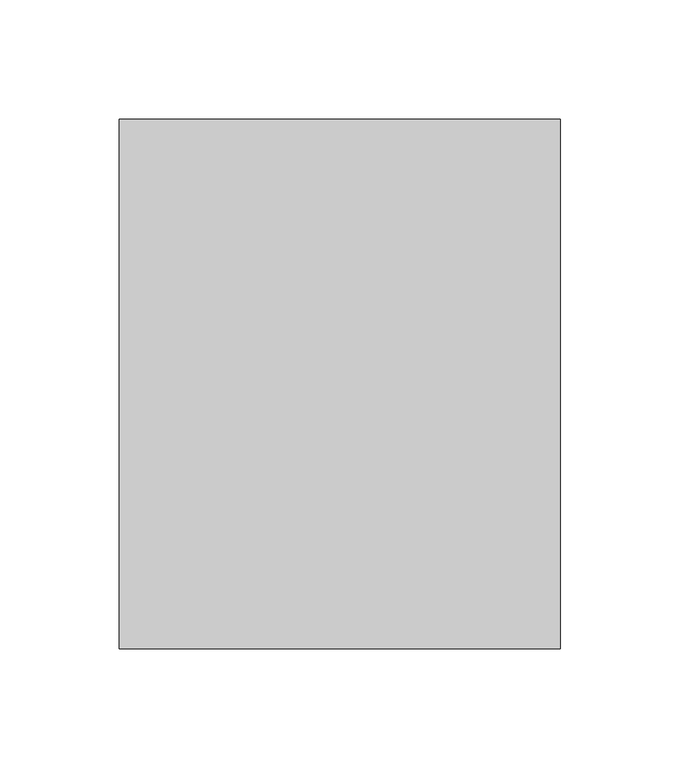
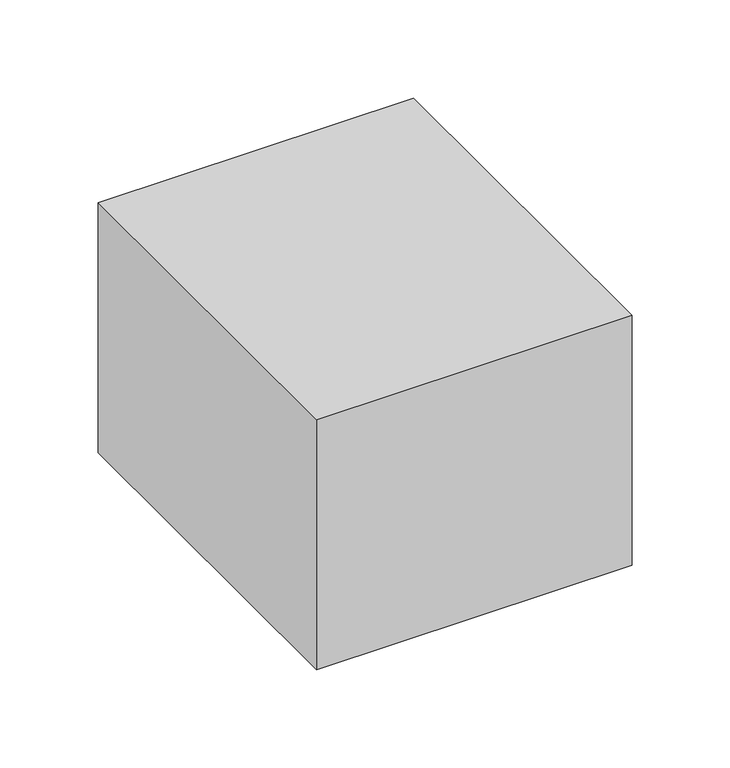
"""IFC4 building model written with IfcOpenShell, lengths in millimetres: light fixture geometry,  216 :  212186."""

from ifc_helpers import new_model, si_unit, frame, origin, place, context, project, spatial, polyline, outline, extrude, source, transform, mapped, element, save


def light_fixture_18111d35(model_context):
    return source(origin(), model_context, "Body", "SweptSolid", [
        extrude(outline(polyline([(19189.2746511, 12901.8121745), (19374.2746511, 12901.8121745), (19374.2746511, 12679.8121745), (19189.2746511, 12679.8121745), (19189.2746511, 12901.8121745)])), frame((0.0, 0.0, 1375.0), z_axis=(0.0, 0.0, 1.0), x_axis=(1.0, 0.0, 0.0)), (0.0, 0.0, 1.0), 155.0),
    ])


if __name__ == "__main__":
    model = new_model("IFC4")
    model_context = context("Model", 3, world=origin())
    ifc_project = project(units=[si_unit("LENGTHUNIT", "METRE", prefix="MILLI")], contexts=[model_context])
    site = spatial("IfcSite", under=ifc_project)
    building = spatial("IfcBuilding", under=site)
    placement = place(None, origin())
    light_fixture_shape = light_fixture_18111d35(model_context)
    element("IfcLightFixture", 1, ObjectType=" 216 :  212186", at=placement, inside=building, context=model_context, shape_type="MappedRepresentation", body=[
        mapped(light_fixture_shape, transform((0.0, 0.0, 0.0), x_axis=(1.0, 0.0, 0.0), y_axis=(0.0, 1.0, 0.0), z_axis=(0.0, 0.0, 1.0))),
    ])
    save(model, "model.ifc")
